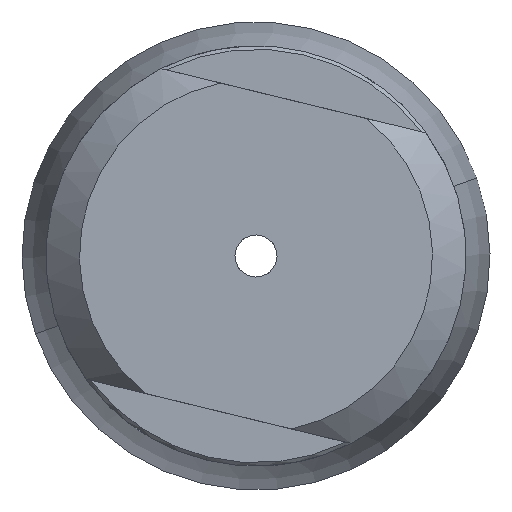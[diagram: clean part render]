
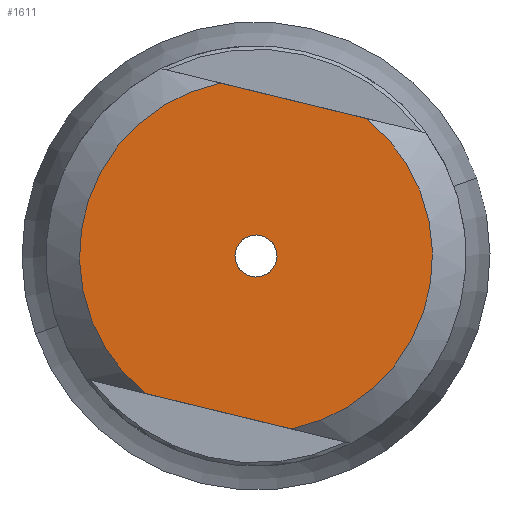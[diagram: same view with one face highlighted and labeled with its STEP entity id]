
A CAD part, front view. The second image highlights one B-rep face of the part: STEP entity #1611.
In plain terms, the highlighted planar face has unit normal (0, -1, 0).
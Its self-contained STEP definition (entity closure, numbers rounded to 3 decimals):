
#15 = EDGE_CURVE ( 'NONE', #2455, #215, #2297, .T. ) ;
#40 = EDGE_CURVE ( 'NONE', #1279, #1890, #2292, .T. ) ;
#102 = EDGE_CURVE ( 'NONE', #1350, #1279, #2223, .T. ) ;
#133 = CARTESIAN_POINT ( 'NONE',  ( 0., -31.5, 0. ) ) ;
#215 = VERTEX_POINT ( 'NONE', #383 ) ;
#262 = DIRECTION ( 'NONE',  ( -0.236, 0., -0.972 ) ) ;
#336 = CARTESIAN_POINT ( 'NONE',  ( -0.826, -31.5, -0.938 ) ) ;
#383 = CARTESIAN_POINT ( 'NONE',  ( 0.826, -31.5, 0.938 ) ) ;
#432 = DIRECTION ( 'NONE',  ( 0., -1., 0. ) ) ;
#433 = CARTESIAN_POINT ( 'NONE',  ( 0., -31.5, 0. ) ) ;
#501 = ORIENTED_EDGE ( 'NONE', *, *, #15, .F. ) ;
#507 = CARTESIAN_POINT ( 'NONE',  ( 2.241, -31.5, 9.232 ) ) ;
#510 = AXIS2_PLACEMENT_3D ( 'NONE', #2482, #432, #262 ) ;
#548 = ORIENTED_EDGE ( 'NONE', *, *, #1311, .F. ) ;
#689 = EDGE_LOOP ( 'NONE', ( #501, #548 ) ) ;
#714 = ORIENTED_EDGE ( 'NONE', *, *, #102, .T. ) ;
#863 = PLANE ( 'NONE',  #1400 ) ;
#1111 = EDGE_CURVE ( 'NONE', #2554, #1350, #2279, .T. ) ;
#1133 = CIRCLE ( 'NONE', #1531, 10.5 ) ;
#1138 = CARTESIAN_POINT ( 'NONE',  ( 2.105, -31.5, -10.287 ) ) ;
#1142 = DIRECTION ( 'NONE',  ( 0.661, 0., 0.751 ) ) ;
#1148 = DIRECTION ( 'NONE',  ( 0., -1., 0. ) ) ;
#1149 = AXIS2_PLACEMENT_3D ( 'NONE', #1164, #2592, #1368 ) ;
#1164 = CARTESIAN_POINT ( 'NONE',  ( 0., -31.5, 0. ) ) ;
#1279 = VERTEX_POINT ( 'NONE', #1997 ) ;
#1298 = DIRECTION ( 'NONE',  ( -0.972, 0., 0.236 ) ) ;
#1311 = EDGE_CURVE ( 'NONE', #215, #2455, #1331, .T. ) ;
#1331 = CIRCLE ( 'NONE', #2202, 1.25 ) ;
#1350 = VERTEX_POINT ( 'NONE', #2586 ) ;
#1360 = CARTESIAN_POINT ( 'NONE',  ( 6.587, -31.5, 8.177 ) ) ;
#1368 = DIRECTION ( 'NONE',  ( 0.661, 0., 0.751 ) ) ;
#1377 = VECTOR ( 'NONE', #2479, 1000. ) ;
#1381 = EDGE_LOOP ( 'NONE', ( #714, #2100, #2401, #1983 ) ) ;
#1400 = AXIS2_PLACEMENT_3D ( 'NONE', #433, #2472, #2248 ) ;
#1531 = AXIS2_PLACEMENT_3D ( 'NONE', #1892, #1692, #2116 ) ;
#1611 = ADVANCED_FACE ( 'NONE', ( #2626, #1805 ), #863, .F. ) ;
#1655 = VECTOR ( 'NONE', #1298, 1000. ) ;
#1692 = DIRECTION ( 'NONE',  ( 0., -1., 0. ) ) ;
#1718 = EDGE_CURVE ( 'NONE', #1890, #2554, #1133, .T. ) ;
#1805 = FACE_BOUND ( 'NONE', #689, .T. ) ;
#1890 = VERTEX_POINT ( 'NONE', #1138 ) ;
#1892 = CARTESIAN_POINT ( 'NONE',  ( 0., -31.5, 0. ) ) ;
#1950 = CARTESIAN_POINT ( 'NONE',  ( -2.241, -31.5, -9.232 ) ) ;
#1983 = ORIENTED_EDGE ( 'NONE', *, *, #1111, .T. ) ;
#1997 = CARTESIAN_POINT ( 'NONE',  ( -6.587, -31.5, -8.177 ) ) ;
#2100 = ORIENTED_EDGE ( 'NONE', *, *, #40, .T. ) ;
#2116 = DIRECTION ( 'NONE',  ( -0.236, 0., -0.972 ) ) ;
#2202 = AXIS2_PLACEMENT_3D ( 'NONE', #133, #1148, #1142 ) ;
#2223 = CIRCLE ( 'NONE', #510, 10.5 ) ;
#2248 = DIRECTION ( 'NONE',  ( -0.236, 0., -0.972 ) ) ;
#2279 = LINE ( 'NONE', #507, #1655 ) ;
#2292 = LINE ( 'NONE', #1950, #1377 ) ;
#2297 = CIRCLE ( 'NONE', #1149, 1.25 ) ;
#2401 = ORIENTED_EDGE ( 'NONE', *, *, #1718, .T. ) ;
#2455 = VERTEX_POINT ( 'NONE', #336 ) ;
#2472 = DIRECTION ( 'NONE',  ( 0., 1., 0. ) ) ;
#2479 = DIRECTION ( 'NONE',  ( 0.972, 0., -0.236 ) ) ;
#2482 = CARTESIAN_POINT ( 'NONE',  ( 0., -31.5, 0. ) ) ;
#2554 = VERTEX_POINT ( 'NONE', #1360 ) ;
#2586 = CARTESIAN_POINT ( 'NONE',  ( -2.105, -31.5, 10.287 ) ) ;
#2592 = DIRECTION ( 'NONE',  ( 0., -1., 0. ) ) ;
#2626 = FACE_OUTER_BOUND ( 'NONE', #1381, .T. ) ;
